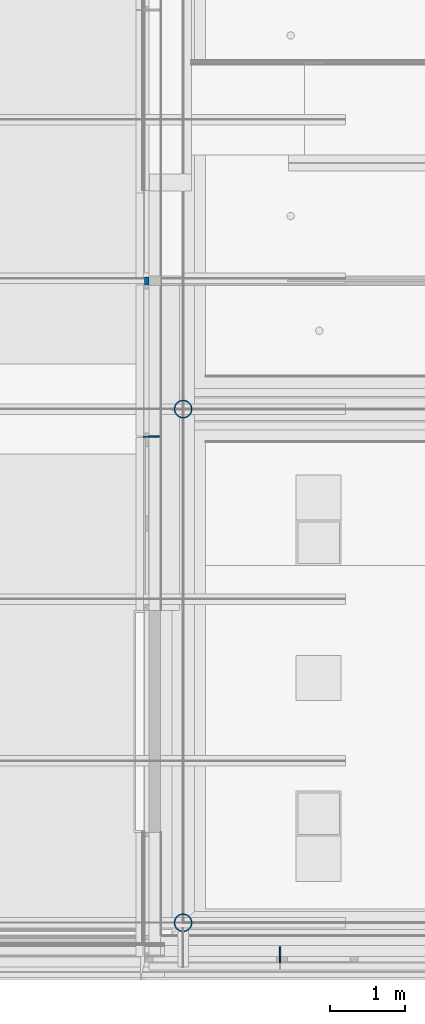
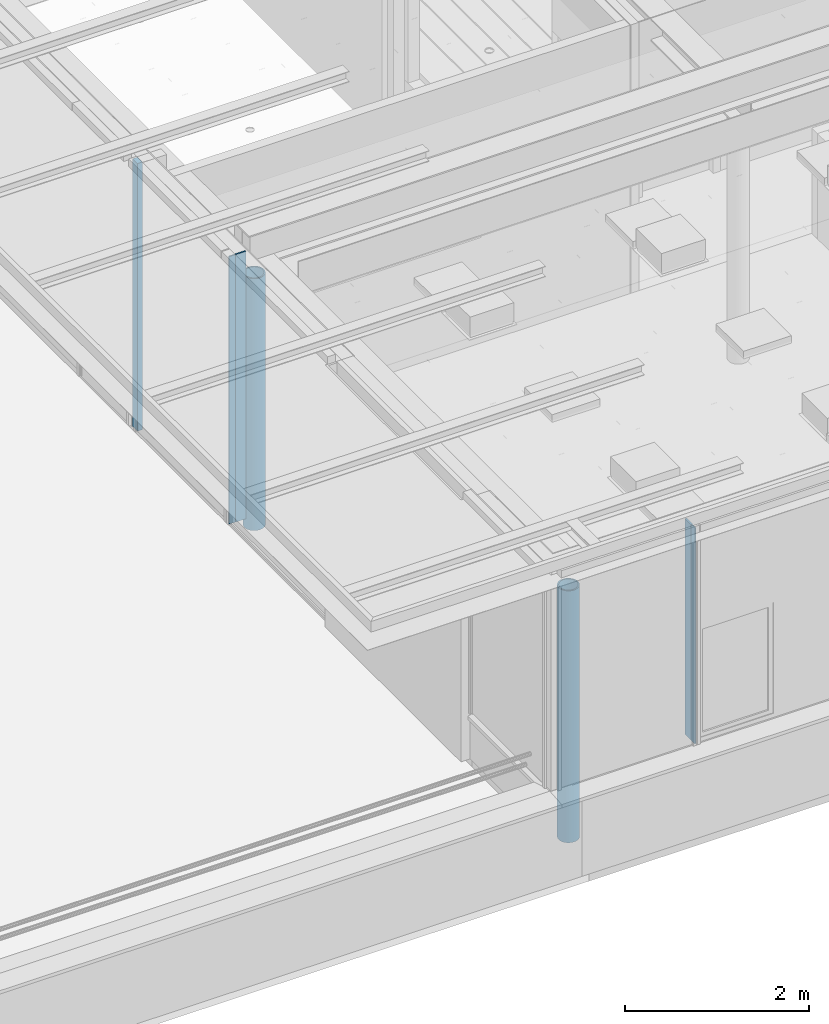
# One storey, part 5 of 260: 7 columns.
"""IFC2X3 building model written with IfcOpenShell, lengths in millimetres."""

from ifc_helpers import new_model, entity, si_unit, converted_unit, derived_unit, money_unit, direction, frame, origin_with_axes, place, context, subcontext, project, spatial, faceted_brep, material, type_object, element, save


model = new_model("IFC2X3")

# Units and contexts
model_context = context("Model", 3, precision=0.01, world=origin_with_axes(), true_north=direction((0.0, 1.0)))
plan_context = context("Plan", 3, precision=0.01, world=origin_with_axes(), true_north=direction((0.0, 1.0)))
body_context = subcontext(model_context, "Body", "Model", "MODEL_VIEW")
ifc_project = project(units=[si_unit("LENGTHUNIT", "METRE", prefix="MILLI"), si_unit("AREAUNIT", "SQUARE_METRE"), si_unit("VOLUMEUNIT", "CUBIC_METRE"), converted_unit("PLANEANGLEUNIT", "DEGREE", entity("IfcPlaneAngleMeasure", 0.0174532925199), si_unit("PLANEANGLEUNIT", "RADIAN"), dimensions=[0, 0, 0, 0, 0, 0, 0]), money_unit("EUR"), converted_unit("TIMEUNIT", "Year", entity("IfcTimeMeasure", 31556926.0), si_unit("TIMEUNIT", "SECOND"), dimensions=[0, 0, 1, 0, 0, 0, 0]), si_unit("MASSUNIT", "GRAM", prefix="KILO"), si_unit("THERMODYNAMICTEMPERATUREUNIT", "DEGREE_CELSIUS"), si_unit("LUMINOUSINTENSITYUNIT", "LUMEN"), si_unit("ENERGYUNIT", "JOULE", prefix="MEGA"), derived_unit("THERMALCONDUCTANCEUNIT", [(si_unit("POWERUNIT", "WATT"), 1), (si_unit("LENGTHUNIT", "METRE"), -1), (si_unit("THERMODYNAMICTEMPERATUREUNIT", "KELVIN"), -1)]), derived_unit("SPECIFICHEATCAPACITYUNIT", [(si_unit("ENERGYUNIT", "JOULE"), 1), (si_unit("MASSUNIT", "GRAM", prefix="KILO"), -1), (si_unit("THERMODYNAMICTEMPERATUREUNIT", "KELVIN"), -1)]), derived_unit("MASSDENSITYUNIT", [(si_unit("MASSUNIT", "GRAM", prefix="KILO"), 1), (si_unit("VOLUMEUNIT", "CUBIC_METRE"), -1)])], contexts=[model_context, plan_context])

# Site, building, storey
site_placement = place(None, origin_with_axes())
site = spatial("IfcSite", under=ifc_project, at=site_placement, Name="Site", CompositionType="ELEMENT")
building_placement = place(site_placement, origin_with_axes())
building = spatial("IfcBuilding", under=site, at=building_placement, Name="Naam gebouw", CompositionType="ELEMENT")
storey_placement = place(building_placement, frame((0.0, 0.0, 3960.0), z_axis=(0.0, 0.0, 1.0), x_axis=(1.0, 0.0, 0.0)))
storey = spatial("IfcBuildingStorey", under=building, at=storey_placement, Name="verdieping", CompositionType="ELEMENT", Elevation=3960.0)

# Columns
ifc_material_1 = material(Name="Metaal - Staal C wit")
column_type_1 = type_object("IfcColumnType", Name="Lucht D245", PredefinedType="COLUMN")
column_1_placement = place(storey_placement, frame((18505.0, 12125.0, -80.0), z_axis=(0.0, 0.0, 1.0), x_axis=(1.0, 0.0, 0.0)))
element("IfcColumn", 1, at=column_1_placement, inside=storey, type_object=column_type_1, material=ifc_material_1, Name="28_kolom ø 273mm", ObjectType="COLUMN", context=body_context, shape_type="Brep", body=[
    faceted_brep([(119.184937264, 27.2031841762, 0.0), (110.143444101, 53.0422871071, 0.0), (110.143444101, 53.0422871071, 3340.0), (119.184937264, 27.2031841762, 3340.0), (122.25, 0.0, 0.0), (119.184937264, -27.2031841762, 0.0), (110.143444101, -53.0422871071, 0.0), (95.5788987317, -76.2216282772, 0.0), (76.2216282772, -95.5788987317, 0.0), (53.0422871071, -110.143444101, 0.0), (27.2031841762, -119.184937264, 0.0), (0.0, -122.25, 0.0), (-27.2031841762, -119.184937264, 0.0), (-53.0422871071, -110.143444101, 0.0), (-76.2216282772, -95.5788987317, 0.0), (-95.5788987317, -76.2216282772, 0.0), (-110.143444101, -53.0422871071, 0.0), (-119.184937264, -27.2031841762, 0.0), (-122.25, 0.0, 0.0), (-119.184937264, 27.2031841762, 0.0), (-110.143444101, 53.0422871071, 0.0), (-95.5788987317, 76.2216282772, 0.0), (-76.2216282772, 95.5788987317, 0.0), (-53.0422871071, 110.143444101, 0.0), (-27.2031841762, 119.184937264, 0.0), (0.0, 122.25, 0.0), (27.2031841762, 119.184937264, 0.0), (53.0422871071, 110.143444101, 0.0), (76.2216282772, 95.5788987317, 0.0), (95.5788987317, 76.2216282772, 0.0), (102.629619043, -27.4995235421, 0.0), (106.25, 0.0, 0.0), (102.629619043, 27.4995235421, 0.0), (92.0151991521, 53.125, 0.0), (75.1300955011, 75.1300955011, 0.0), (53.125, 92.0151991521, 0.0), (27.4995235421, 102.629619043, 0.0), (0.0, 106.25, 0.0), (-27.4995235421, 102.629619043, 0.0), (-53.125, 92.0151991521, 0.0), (-75.1300955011, 75.1300955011, 0.0), (-92.0151991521, 53.125, 0.0), (-102.629619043, 27.4995235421, 0.0), (-106.25, 0.0, 0.0), (-102.629619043, -27.4995235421, 0.0), (-92.0151991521, -53.125, 0.0), (-75.1300955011, -75.1300955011, 0.0), (-53.125, -92.0151991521, 0.0), (-27.4995235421, -102.629619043, 0.0), (0.0, -106.25, 0.0), (27.4995235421, -102.629619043, 0.0), (53.125, -92.0151991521, 0.0), (75.1300955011, -75.1300955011, 0.0), (92.0151991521, -53.125, 0.0), (95.5788987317, 76.2216282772, 3340.0), (76.2216282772, 95.5788987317, 3340.0), (53.0422871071, 110.143444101, 3340.0), (27.2031841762, 119.184937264, 3340.0), (0.0, 122.25, 3340.0), (-27.2031841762, 119.184937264, 3340.0), (-53.0422871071, 110.143444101, 3340.0), (-76.2216282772, 95.5788987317, 3340.0), (-95.5788987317, 76.2216282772, 3340.0), (-110.143444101, 53.0422871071, 3340.0), (-119.184937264, 27.2031841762, 3340.0), (-122.25, 0.0, 3340.0), (-119.184937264, -27.2031841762, 3340.0), (-110.143444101, -53.0422871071, 3340.0), (-95.5788987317, -76.2216282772, 3340.0), (-76.2216282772, -95.5788987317, 3340.0), (-53.0422871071, -110.143444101, 3340.0), (-27.2031841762, -119.184937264, 3340.0), (0.0, -122.25, 3340.0), (27.2031841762, -119.184937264, 3340.0), (53.0422871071, -110.143444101, 3340.0), (76.2216282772, -95.5788987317, 3340.0), (95.5788987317, -76.2216282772, 3340.0), (110.143444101, -53.0422871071, 3340.0), (119.184937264, -27.2031841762, 3340.0), (122.25, 0.0, 3340.0), (102.629619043, -27.4995235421, 3340.0), (92.0151991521, -53.125, 3340.0), (75.1300955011, -75.1300955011, 3340.0), (53.125, -92.0151991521, 3340.0), (27.4995235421, -102.629619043, 3340.0), (0.0, -106.25, 3340.0), (-27.4995235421, -102.629619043, 3340.0), (-53.125, -92.0151991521, 3340.0), (-75.1300955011, -75.1300955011, 3340.0), (-92.0151991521, -53.125, 3340.0), (-102.629619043, -27.4995235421, 3340.0), (-106.25, 0.0, 3340.0), (-102.629619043, 27.4995235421, 3340.0), (-92.0151991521, 53.125, 3340.0), (-75.1300955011, 75.1300955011, 3340.0), (-53.125, 92.0151991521, 3340.0), (-27.4995235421, 102.629619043, 3340.0), (0.0, 106.25, 3340.0), (27.4995235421, 102.629619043, 3340.0), (53.125, 92.0151991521, 3340.0), (75.1300955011, 75.1300955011, 3340.0), (92.0151991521, 53.125, 3340.0), (102.629619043, 27.4995235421, 3340.0), (106.25, 0.0, 3340.0)], [[[0, 1, 2, 3]], [[0, 4, 5, 6, 7, 8, 9, 10, 11, 12, 13, 14, 15, 16, 17, 18, 19, 20, 21, 22, 23, 24, 25, 26, 27, 28, 29, 1], [30, 31, 32, 33, 34, 35, 36, 37, 38, 39, 40, 41, 42, 43, 44, 45, 46, 47, 48, 49, 50, 51, 52, 53]], [[1, 29, 54, 2]], [[3, 2, 54, 55, 56, 57, 58, 59, 60, 61, 62, 63, 64, 65, 66, 67, 68, 69, 70, 71, 72, 73, 74, 75, 76, 77, 78, 79], [80, 81, 82, 83, 84, 85, 86, 87, 88, 89, 90, 91, 92, 93, 94, 95, 96, 97, 98, 99, 100, 101, 102, 103]], [[4, 0, 3, 79]], [[5, 4, 79, 78]], [[6, 5, 78, 77]], [[7, 6, 77, 76]], [[8, 7, 76, 75]], [[9, 8, 75, 74]], [[10, 9, 74, 73]], [[11, 10, 73, 72]], [[12, 11, 72, 71]], [[13, 12, 71, 70]], [[14, 13, 70, 69]], [[15, 14, 69, 68]], [[16, 15, 68, 67]], [[17, 16, 67, 66]], [[18, 17, 66, 65]], [[19, 18, 65, 64]], [[20, 19, 64, 63]], [[21, 20, 63, 62]], [[22, 21, 62, 61]], [[23, 22, 61, 60]], [[24, 23, 60, 59]], [[25, 24, 59, 58]], [[26, 25, 58, 57]], [[27, 26, 57, 56]], [[28, 27, 56, 55]], [[29, 28, 55, 54]], [[31, 30, 80, 103]], [[32, 31, 103, 102]], [[33, 32, 102, 101]], [[34, 33, 101, 100]], [[35, 34, 100, 99]], [[36, 35, 99, 98]], [[37, 36, 98, 97]], [[38, 37, 97, 96]], [[39, 38, 96, 95]], [[40, 39, 95, 94]], [[41, 40, 94, 93]], [[42, 41, 93, 92]], [[43, 42, 92, 91]], [[44, 43, 91, 90]], [[45, 44, 90, 89]], [[46, 45, 89, 88]], [[47, 46, 88, 87]], [[48, 47, 87, 86]], [[49, 48, 86, 85]], [[50, 49, 85, 84]], [[51, 50, 84, 83]], [[52, 51, 83, 82]], [[53, 52, 82, 81]], [[30, 53, 81, 80]]]),
])
column_2_placement = place(storey_placement, frame((18505.0, 5300.0, -80.0), z_axis=(0.0, 0.0, 1.0), x_axis=(1.0, 0.0, 0.0)))
element("IfcColumn", 2, at=column_2_placement, inside=storey, type_object=column_type_1, material=ifc_material_1, Name="28_kolom ø 273mm", ObjectType="COLUMN", context=body_context, shape_type="Brep", body=[
    faceted_brep([(119.184937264, 27.2031841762, 0.0), (110.143444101, 53.0422871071, 0.0), (110.143444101, 53.0422871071, 3340.0), (119.184937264, 27.2031841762, 3340.0), (122.25, 0.0, 0.0), (119.184937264, -27.2031841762, 0.0), (110.143444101, -53.0422871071, 0.0), (95.5788987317, -76.2216282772, 0.0), (76.2216282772, -95.5788987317, 0.0), (53.0422871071, -110.143444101, 0.0), (27.2031841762, -119.184937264, 0.0), (0.0, -122.25, 0.0), (-27.2031841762, -119.184937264, 0.0), (-53.0422871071, -110.143444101, 0.0), (-76.2216282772, -95.5788987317, 0.0), (-95.5788987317, -76.2216282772, 0.0), (-110.143444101, -53.0422871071, 0.0), (-119.184937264, -27.2031841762, 0.0), (-122.25, 0.0, 0.0), (-119.184937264, 27.2031841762, 0.0), (-110.143444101, 53.0422871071, 0.0), (-95.5788987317, 76.2216282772, 0.0), (-76.2216282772, 95.5788987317, 0.0), (-53.0422871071, 110.143444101, 0.0), (-27.2031841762, 119.184937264, 0.0), (0.0, 122.25, 0.0), (27.2031841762, 119.184937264, 0.0), (53.0422871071, 110.143444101, 0.0), (76.2216282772, 95.5788987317, 0.0), (95.5788987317, 76.2216282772, 0.0), (102.629619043, -27.4995235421, 0.0), (106.25, 0.0, 0.0), (102.629619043, 27.4995235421, 0.0), (92.0151991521, 53.125, 0.0), (75.1300955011, 75.1300955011, 0.0), (53.125, 92.0151991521, 0.0), (27.4995235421, 102.629619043, 0.0), (0.0, 106.25, 0.0), (-27.4995235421, 102.629619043, 0.0), (-53.125, 92.0151991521, 0.0), (-75.1300955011, 75.1300955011, 0.0), (-92.0151991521, 53.125, 0.0), (-102.629619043, 27.4995235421, 0.0), (-106.25, 0.0, 0.0), (-102.629619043, -27.4995235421, 0.0), (-92.0151991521, -53.125, 0.0), (-75.1300955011, -75.1300955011, 0.0), (-53.125, -92.0151991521, 0.0), (-27.4995235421, -102.629619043, 0.0), (0.0, -106.25, 0.0), (27.4995235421, -102.629619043, 0.0), (53.125, -92.0151991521, 0.0), (75.1300955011, -75.1300955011, 0.0), (92.0151991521, -53.125, 0.0), (95.5788987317, 76.2216282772, 3340.0), (76.2216282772, 95.5788987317, 3340.0), (53.0422871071, 110.143444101, 3340.0), (27.2031841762, 119.184937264, 3340.0), (0.0, 122.25, 3340.0), (-27.2031841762, 119.184937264, 3340.0), (-53.0422871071, 110.143444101, 3340.0), (-76.2216282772, 95.5788987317, 3340.0), (-95.5788987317, 76.2216282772, 3340.0), (-110.143444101, 53.0422871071, 3340.0), (-119.184937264, 27.2031841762, 3340.0), (-122.25, 0.0, 3340.0), (-119.184937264, -27.2031841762, 3340.0), (-110.143444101, -53.0422871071, 3340.0), (-95.5788987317, -76.2216282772, 3340.0), (-76.2216282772, -95.5788987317, 3340.0), (-53.0422871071, -110.143444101, 3340.0), (-27.2031841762, -119.184937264, 3340.0), (0.0, -122.25, 3340.0), (27.2031841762, -119.184937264, 3340.0), (53.0422871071, -110.143444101, 3340.0), (76.2216282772, -95.5788987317, 3340.0), (95.5788987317, -76.2216282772, 3340.0), (110.143444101, -53.0422871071, 3340.0), (119.184937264, -27.2031841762, 3340.0), (122.25, 0.0, 3340.0), (102.629619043, -27.4995235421, 3340.0), (92.0151991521, -53.125, 3340.0), (75.1300955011, -75.1300955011, 3340.0), (53.125, -92.0151991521, 3340.0), (27.4995235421, -102.629619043, 3340.0), (0.0, -106.25, 3340.0), (-27.4995235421, -102.629619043, 3340.0), (-53.125, -92.0151991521, 3340.0), (-75.1300955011, -75.1300955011, 3340.0), (-92.0151991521, -53.125, 3340.0), (-102.629619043, -27.4995235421, 3340.0), (-106.25, 0.0, 3340.0), (-102.629619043, 27.4995235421, 3340.0), (-92.0151991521, 53.125, 3340.0), (-75.1300955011, 75.1300955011, 3340.0), (-53.125, 92.0151991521, 3340.0), (-27.4995235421, 102.629619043, 3340.0), (0.0, 106.25, 3340.0), (27.4995235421, 102.629619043, 3340.0), (53.125, 92.0151991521, 3340.0), (75.1300955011, 75.1300955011, 3340.0), (92.0151991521, 53.125, 3340.0), (102.629619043, 27.4995235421, 3340.0), (106.25, 0.0, 3340.0)], [[[0, 1, 2, 3]], [[0, 4, 5, 6, 7, 8, 9, 10, 11, 12, 13, 14, 15, 16, 17, 18, 19, 20, 21, 22, 23, 24, 25, 26, 27, 28, 29, 1], [30, 31, 32, 33, 34, 35, 36, 37, 38, 39, 40, 41, 42, 43, 44, 45, 46, 47, 48, 49, 50, 51, 52, 53]], [[1, 29, 54, 2]], [[3, 2, 54, 55, 56, 57, 58, 59, 60, 61, 62, 63, 64, 65, 66, 67, 68, 69, 70, 71, 72, 73, 74, 75, 76, 77, 78, 79], [80, 81, 82, 83, 84, 85, 86, 87, 88, 89, 90, 91, 92, 93, 94, 95, 96, 97, 98, 99, 100, 101, 102, 103]], [[4, 0, 3, 79]], [[5, 4, 79, 78]], [[6, 5, 78, 77]], [[7, 6, 77, 76]], [[8, 7, 76, 75]], [[9, 8, 75, 74]], [[10, 9, 74, 73]], [[11, 10, 73, 72]], [[12, 11, 72, 71]], [[13, 12, 71, 70]], [[14, 13, 70, 69]], [[15, 14, 69, 68]], [[16, 15, 68, 67]], [[17, 16, 67, 66]], [[18, 17, 66, 65]], [[19, 18, 65, 64]], [[20, 19, 64, 63]], [[21, 20, 63, 62]], [[22, 21, 62, 61]], [[23, 22, 61, 60]], [[24, 23, 60, 59]], [[25, 24, 59, 58]], [[26, 25, 58, 57]], [[27, 26, 57, 56]], [[28, 27, 56, 55]], [[29, 28, 55, 54]], [[31, 30, 80, 103]], [[32, 31, 103, 102]], [[33, 32, 102, 101]], [[34, 33, 101, 100]], [[35, 34, 100, 99]], [[36, 35, 99, 98]], [[37, 36, 98, 97]], [[38, 37, 97, 96]], [[39, 38, 96, 95]], [[40, 39, 95, 94]], [[41, 40, 94, 93]], [[42, 41, 93, 92]], [[43, 42, 92, 91]], [[44, 43, 91, 90]], [[45, 44, 90, 89]], [[46, 45, 89, 88]], [[47, 46, 88, 87]], [[48, 47, 87, 86]], [[49, 48, 86, 85]], [[50, 49, 85, 84]], [[51, 50, 84, 83]], [[52, 51, 83, 82]], [[53, 52, 82, 81]], [[30, 53, 81, 80]]]),
])
column_type_2 = type_object("IfcColumnType", Name="Metaal - Staal C wit 20 x 130", PredefinedType="COLUMN")
column_3_placement = place(storey_placement, frame((18120.0000757, 11757.5000337, 333.0), z_axis=(0.0, 0.0, 1.0), x_axis=(0.0, -1.0, 0.0)))
element("IfcColumn", 3, at=column_3_placement, inside=storey, type_object=column_type_2, material=ifc_material_1, Name="28_kolom koker", ObjectType="COLUMN", context=body_context, shape_type="Brep", body=[
    faceted_brep([(-10.0, -65.0, 3547.0), (-10.0, -65.0, 0.0), (10.0, -65.0, 0.0), (10.0, -65.0, 3547.0), (-10.0, 65.0, 3547.0), (-10.0, 65.0, 0.0), (10.0, 65.0, 0.0), (10.0, 65.0, 3547.0)], [[[0, 1, 2, 3]], [[4, 5, 1, 0]], [[2, 1, 5, 6]], [[3, 2, 6, 7]], [[4, 0, 3, 7]], [[7, 6, 5, 4]]]),
])
column_4_placement = place(storey_placement, frame((19792.5027137, 4915.0, 1020.0), z_axis=(0.0, 0.0, 1.0), x_axis=(1.0, 0.0, 0.0)))
element("IfcColumn", 4, at=column_4_placement, inside=storey, type_object=column_type_2, material=ifc_material_1, Name="28_kolom koker", ObjectType="COLUMN", context=body_context, shape_type="Brep", body=[
    faceted_brep([(-10.0, -65.0, 2860.0), (-10.0, -65.0, 0.0), (10.0, -65.0, 0.0), (10.0, -65.0, 2860.0), (-10.0, 65.0, 2860.0), (-10.0, 65.0, 0.0), (10.0, 65.0, 0.0), (10.0, 65.0, 2860.0)], [[[0, 1, 2, 3]], [[4, 5, 1, 0]], [[2, 1, 5, 6]], [[3, 2, 6, 7]], [[4, 0, 3, 7]], [[7, 6, 5, 4]]]),
])
ifc_material_2 = material(Name="Metaal - Aluminium beige")
column_type_3 = type_object("IfcColumnType", Name="Metaal - Aluminium beige 15 x 80", PredefinedType="COLUMN")
column_5_placement = place(storey_placement, frame((18015.0, 11757.5000337, 333.0), z_axis=(0.0, 0.0, 1.0), x_axis=(0.0, -1.0, 0.0)))
element("IfcColumn", 5, at=column_5_placement, inside=storey, type_object=column_type_3, material=ifc_material_2, Name="28_kolom koker", ObjectType="COLUMN", context=body_context, shape_type="Brep", body=[
    faceted_brep([(-7.5, -40.0, 3547.0), (-7.5, -40.0, 0.0), (7.5, -40.0, 0.0), (7.5, -40.0, 3547.0), (-7.5, 40.0, 3547.0), (-7.5, 40.0, 0.0), (7.5, 40.0, 0.0), (7.5, 40.0, 3547.0)], [[[0, 1, 2, 3]], [[4, 5, 1, 0]], [[2, 1, 5, 6]], [[3, 2, 6, 7]], [[4, 0, 3, 7]], [[7, 6, 5, 4]]]),
])
column_6_placement = place(storey_placement, frame((19792.5027137, 4809.99992429, 1020.0), z_axis=(0.0, 0.0, 1.0), x_axis=(1.0, 0.0, 0.0)))
element("IfcColumn", 6, at=column_6_placement, inside=storey, type_object=column_type_3, material=ifc_material_2, Name="28_kolom koker", ObjectType="COLUMN", context=body_context, shape_type="Brep", body=[
    faceted_brep([(-7.5, -40.0, 2860.0), (-7.5, -40.0, 0.0), (7.5, -40.0, 0.0), (7.5, -40.0, 2860.0), (-7.5, 40.0, 2860.0), (-7.5, 40.0, 0.0), (7.5, 40.0, 0.0), (7.5, 40.0, 2860.0)], [[[0, 1, 2, 3]], [[4, 5, 1, 0]], [[2, 1, 5, 6]], [[3, 2, 6, 7]], [[4, 0, 3, 7]], [[7, 6, 5, 4]]]),
])
ifc_material_3 = material(Name="Isolatie - Kunststof hard")
column_type_4 = type_object("IfcColumnType", Name="Isolatie - Kunststof hard 105 x 60", PredefinedType="COLUMN")
column_7_placement = place(storey_placement, frame((18025.0, 13827.5000434, 330.0), z_axis=(0.0, 0.0, 1.0), x_axis=(0.0, -1.0, 0.0)))
element("IfcColumn", 7, at=column_7_placement, inside=storey, type_object=column_type_4, material=ifc_material_3, Name="28_kolom koker", ObjectType="COLUMN", context=body_context, shape_type="Brep", body=[
    faceted_brep([(-52.5, -30.0, 3550.0), (-52.5, -30.0, 0.0), (52.5, -30.0, 0.0), (52.5, -30.0, 3550.0), (-52.5, 30.0, 3550.0), (-52.5, 30.0, 0.0), (52.5, 30.0, 0.0), (52.5, 30.0, 3550.0)], [[[0, 1, 2, 3]], [[4, 5, 1, 0]], [[2, 1, 5, 6]], [[3, 2, 6, 7]], [[4, 0, 3, 7]], [[7, 6, 5, 4]]]),
])

save(model, "model.ifc")
